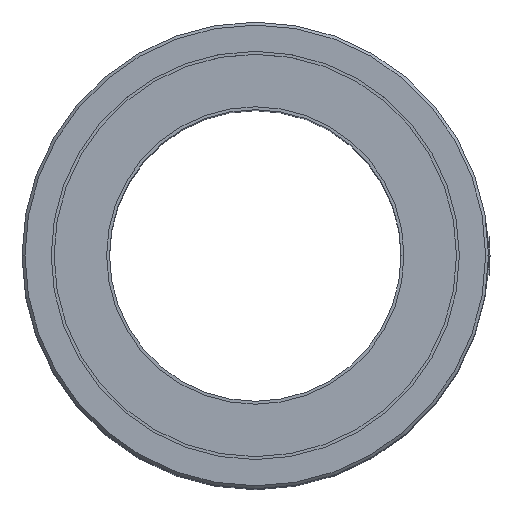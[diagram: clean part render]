
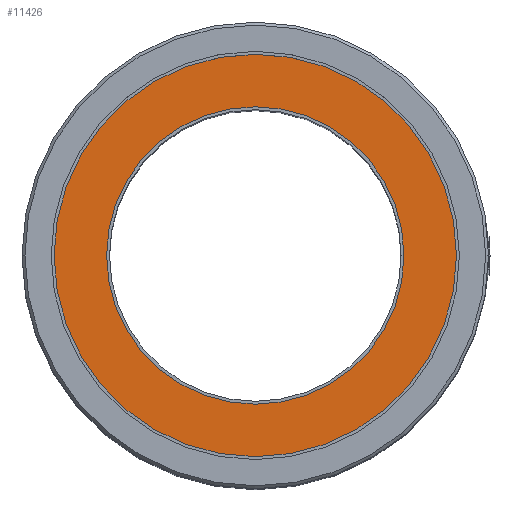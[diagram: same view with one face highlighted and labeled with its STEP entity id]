
A CAD part, top view. The second image highlights one B-rep face of the part: STEP entity #11426.
In plain terms, the highlighted planar face has unit normal (0, 0, 1).
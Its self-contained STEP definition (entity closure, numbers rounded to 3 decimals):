
#132 = CARTESIAN_POINT ( 'NONE',  ( -13.8, 0., 19.95 ) ) ;
#365 = AXIS2_PLACEMENT_3D ( 'NONE', #2231, #8615, #3134 ) ;
#831 = VERTEX_POINT ( 'NONE', #8142 ) ;
#834 = DIRECTION ( 'NONE',  ( 0., 0., 1. ) ) ;
#990 = AXIS2_PLACEMENT_3D ( 'NONE', #10597, #5086, #11503 ) ;
#1481 = FACE_BOUND ( 'NONE', #7758, .T. ) ;
#1900 = VERTEX_POINT ( 'NONE', #3743 ) ;
#2033 = CIRCLE ( 'NONE', #3844, 13.8 ) ;
#2127 = EDGE_CURVE ( 'NONE', #1900, #7009, #2628, .T. ) ;
#2231 = CARTESIAN_POINT ( 'NONE',  ( 0., 0., 19.95 ) ) ;
#2628 = CIRCLE ( 'NONE', #365, 13.8 ) ;
#2875 = CARTESIAN_POINT ( 'NONE',  ( 0., 0., 19.95 ) ) ;
#3076 = ORIENTED_EDGE ( 'NONE', *, *, #3405, .F. ) ;
#3134 = DIRECTION ( 'NONE',  ( 1., 0., 0. ) ) ;
#3405 = EDGE_CURVE ( 'NONE', #831, #6909, #6155, .T. ) ;
#3481 = DIRECTION ( 'NONE',  ( 0., 0., 1. ) ) ;
#3743 = CARTESIAN_POINT ( 'NONE',  ( 13.8, 0., 19.95 ) ) ;
#3804 = DIRECTION ( 'NONE',  ( 1., 0., 0. ) ) ;
#3844 = AXIS2_PLACEMENT_3D ( 'NONE', #2875, #9307, #3804 ) ;
#4298 = AXIS2_PLACEMENT_3D ( 'NONE', #7102, #3481, #9908 ) ;
#5086 = DIRECTION ( 'NONE',  ( 0., 0., 1. ) ) ;
#5129 = AXIS2_PLACEMENT_3D ( 'NONE', #6315, #834, #7239 ) ;
#5309 = EDGE_CURVE ( 'NONE', #7009, #1900, #2033, .T. ) ;
#6071 = FACE_OUTER_BOUND ( 'NONE', #9794, .T. ) ;
#6142 = EDGE_CURVE ( 'NONE', #6909, #831, #11183, .T. ) ;
#6155 = CIRCLE ( 'NONE', #990, 10.2 ) ;
#6315 = CARTESIAN_POINT ( 'NONE',  ( 0., 0., 19.95 ) ) ;
#6909 = VERTEX_POINT ( 'NONE', #7017 ) ;
#7009 = VERTEX_POINT ( 'NONE', #132 ) ;
#7017 = CARTESIAN_POINT ( 'NONE',  ( 10.2, 0., 19.95 ) ) ;
#7070 = ORIENTED_EDGE ( 'NONE', *, *, #6142, .F. ) ;
#7102 = CARTESIAN_POINT ( 'NONE',  ( 0., 0., 19.95 ) ) ;
#7239 = DIRECTION ( 'NONE',  ( 1., 0., 0. ) ) ;
#7758 = EDGE_LOOP ( 'NONE', ( #7070, #3076 ) ) ;
#8142 = CARTESIAN_POINT ( 'NONE',  ( -10.2, 0., 19.95 ) ) ;
#8615 = DIRECTION ( 'NONE',  ( 0., 0., 1. ) ) ;
#8752 = ORIENTED_EDGE ( 'NONE', *, *, #5309, .T. ) ;
#8997 = PLANE ( 'NONE',  #4298 ) ;
#9307 = DIRECTION ( 'NONE',  ( 0., 0., 1. ) ) ;
#9794 = EDGE_LOOP ( 'NONE', ( #11324, #8752 ) ) ;
#9908 = DIRECTION ( 'NONE',  ( 1., 0., 0. ) ) ;
#10597 = CARTESIAN_POINT ( 'NONE',  ( 0., 0., 19.95 ) ) ;
#11183 = CIRCLE ( 'NONE', #5129, 10.2 ) ;
#11324 = ORIENTED_EDGE ( 'NONE', *, *, #2127, .T. ) ;
#11426 = ADVANCED_FACE ( 'NONE', ( #1481, #6071 ), #8997, .T. ) ;
#11503 = DIRECTION ( 'NONE',  ( 1., 0., 0. ) ) ;
